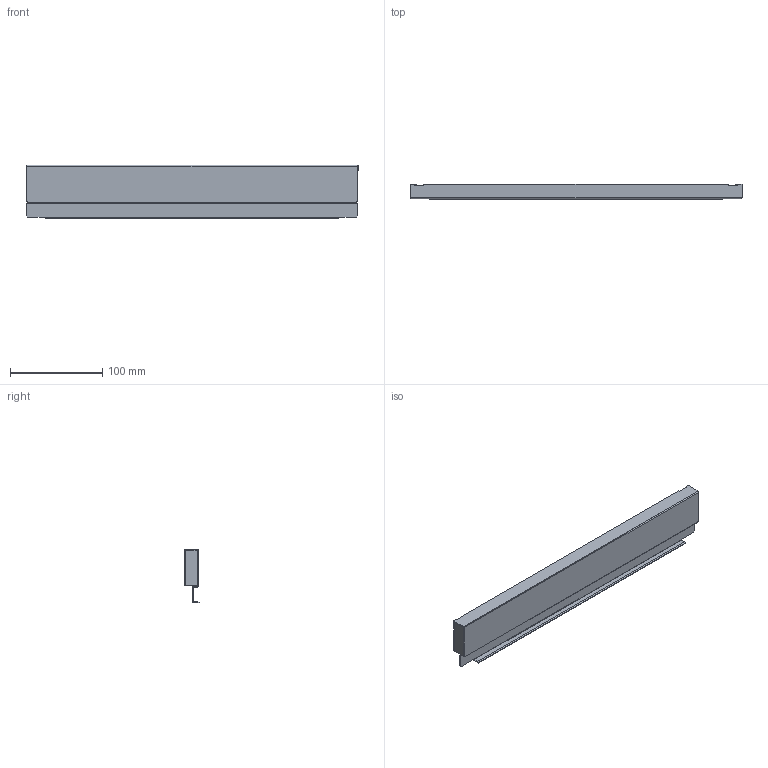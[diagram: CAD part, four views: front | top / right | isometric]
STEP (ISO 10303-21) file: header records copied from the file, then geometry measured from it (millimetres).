
FILE_DESCRIPTION (( 'STEP AP214' ), '1' );
FILE_NAME ('_STRW_H63_KAB_450.step', '2010-08-24T14:40:49', ( 'grass' ), ( '' ), 'SwSTEP 2.0', 'SolidWorks 2009', '' );
FILE_SCHEMA (( 'AUTOMOTIVE_DESIGN' ));
Length unit declared in the file: millimetre
Products named in the file (1): _STRW_H63_KAB_450
Bounding box: 360 x 17 x 58.14 mm (x, y, z)
Volume: 25405.8 mm3; surface area: 64301 mm2
Topology: 1 solids, 1 shells, 77 faces, 217 edges, 142 vertices
Faces by surface type: plane 54, cylinder 23
Entity records: 2507 total; most frequent: CARTESIAN_POINT 437, ORIENTED_EDGE 434, DIRECTION 419, EDGE_CURVE 217, LINE 171, VECTOR 171, VERTEX_POINT 142, AXIS2_PLACEMENT_3D 124
